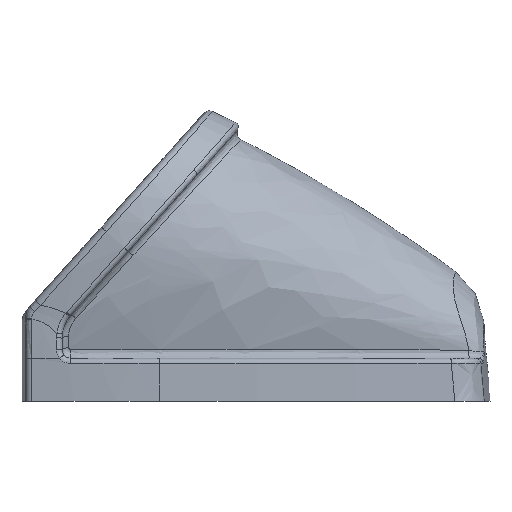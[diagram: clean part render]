
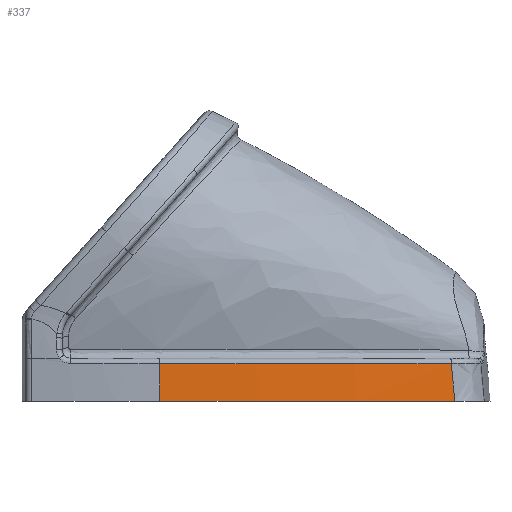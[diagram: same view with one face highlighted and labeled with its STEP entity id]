
A CAD part, left-side view. The second image highlights one B-rep face of the part: STEP entity #337.
In plain terms, the highlighted cylindrical face has radius 2500 mm (diameter 5000 mm), a partial arc.
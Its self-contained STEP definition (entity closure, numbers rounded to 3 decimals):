
#141=CYLINDRICAL_SURFACE('',#1879,2500.);
#167=LINE('',#3862,#188);
#188=VECTOR('',#2088,1.);
#225=FACE_OUTER_BOUND('',#499,.T.);
#337=ADVANCED_FACE('',(#225),#141,.T.);
#499=EDGE_LOOP('',(#930,#931,#932,#933));
#674=B_SPLINE_CURVE_WITH_KNOTS('',3,(#3855,#3856,#3857,#3858,#3859,#3860,
#3861),.UNSPECIFIED.,.F.,.F.,(4,3,4),(0.,0.507,1.),
 .UNSPECIFIED.);
#930=ORIENTED_EDGE('',*,*,#1595,.T.);
#931=ORIENTED_EDGE('',*,*,#1497,.T.);
#932=ORIENTED_EDGE('',*,*,#1596,.T.);
#933=ORIENTED_EDGE('',*,*,#1462,.T.);
#1298=VERTEX_POINT('',#2266);
#1299=VERTEX_POINT('',#2268);
#1324=VERTEX_POINT('',#2656);
#1326=VERTEX_POINT('',#2704);
#1462=EDGE_CURVE('',#1299,#1298,#1731,.T.);
#1497=EDGE_CURVE('',#1324,#1326,#1746,.T.);
#1595=EDGE_CURVE('',#1298,#1324,#674,.T.);
#1596=EDGE_CURVE('',#1326,#1299,#167,.T.);
#1731=CIRCLE('',#1821,2500.);
#1746=CIRCLE('',#1839,2500.);
#1821=AXIS2_PLACEMENT_3D('',#2267,#1959,#1960);
#1839=AXIS2_PLACEMENT_3D('',#2705,#1997,#1998);
#1879=AXIS2_PLACEMENT_3D('',#3863,#2089,#2090);
#1959=DIRECTION('',(0.,0.,1.));
#1960=DIRECTION('',(-1.,0.,0.));
#1997=DIRECTION('',(0.,0.,-1.));
#1998=DIRECTION('',(-1.,0.,0.));
#2088=DIRECTION('',(0.,0.,-1.));
#2089=DIRECTION('',(0.,0.,-1.));
#2090=DIRECTION('',(-1.,0.,0.));
#2266=CARTESIAN_POINT('',(-136.329,-503.213,0.));
#2267=CARTESIAN_POINT('',(2340.,-160.,0.));
#2268=CARTESIAN_POINT('',(-160.,-160.,0.));
#2656=CARTESIAN_POINT('',(-136.885,-499.175,44.));
#2704=CARTESIAN_POINT('',(-160.,-160.,44.));
#2705=CARTESIAN_POINT('',(2340.,-160.,44.));
#3855=CARTESIAN_POINT('',(-136.329,-503.213,0.));
#3856=CARTESIAN_POINT('',(-136.424,-502.53,7.443));
#3857=CARTESIAN_POINT('',(-136.518,-501.847,14.886));
#3858=CARTESIAN_POINT('',(-136.612,-501.164,22.33));
#3859=CARTESIAN_POINT('',(-136.703,-500.501,29.553));
#3860=CARTESIAN_POINT('',(-136.794,-499.838,36.777));
#3861=CARTESIAN_POINT('',(-136.885,-499.175,44.));
#3862=CARTESIAN_POINT('',(-160.,-160.,50.));
#3863=CARTESIAN_POINT('',(2340.,-160.,50.));
